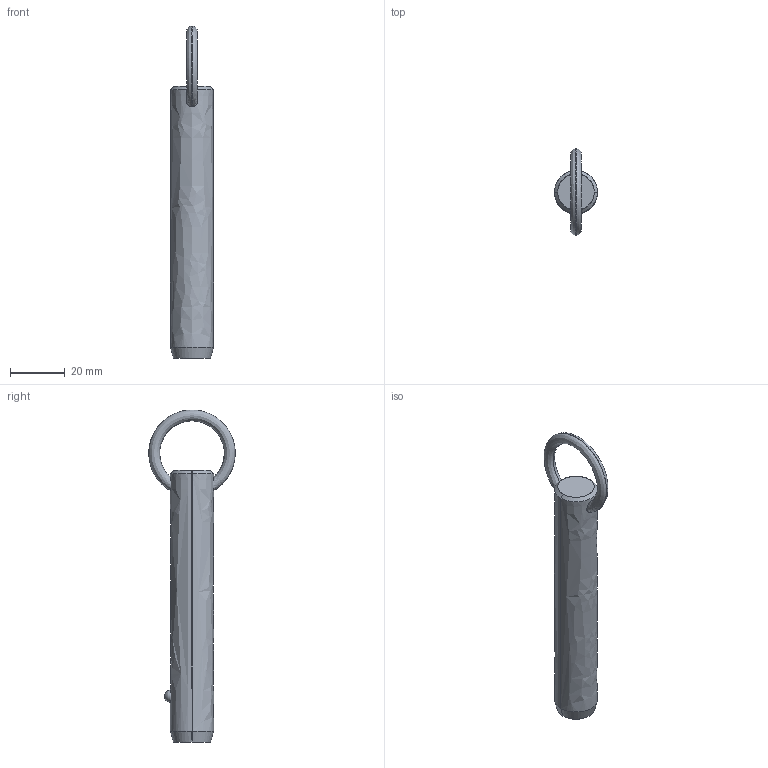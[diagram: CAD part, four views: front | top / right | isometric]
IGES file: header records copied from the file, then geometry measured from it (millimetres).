
Start section: SolidWorks IGES file using analytic representation for surfaces
Global section: file name: C:\Users\liam_\OneDrive\Documents\WORK\Work for WixRoyd\Job Files\J-00019 - Matt Davis CAD Checking\04. CAD Drawings\automotion20190605\P1250.2_v2\P1250.2_v2_20190729_IGES\P1250.062-280.igs; native system: SolidWorks 2017; preprocessor: SolidWorks 2017; author: liam_; date: 190729.233358; units: millimetre
Bounding box: 15.8 x 31.7 x 121.79 mm (x, y, z)
Surface area: 6117.7 mm2 (no closed solid volume)
Topology: 0 solids, 0 shells, 12 faces, 292 edges, 290 vertices
Faces by surface type: revolution 8, bspline 4
